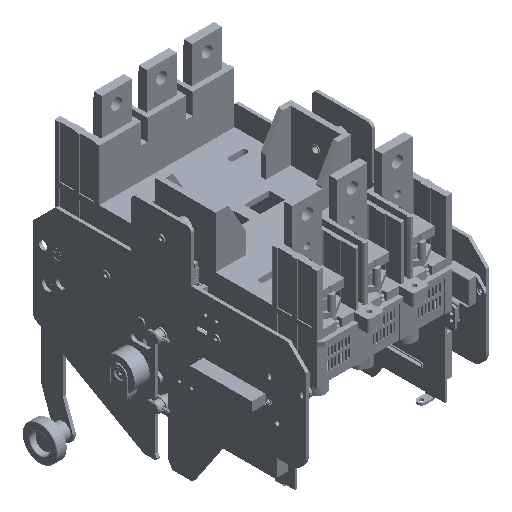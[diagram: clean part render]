
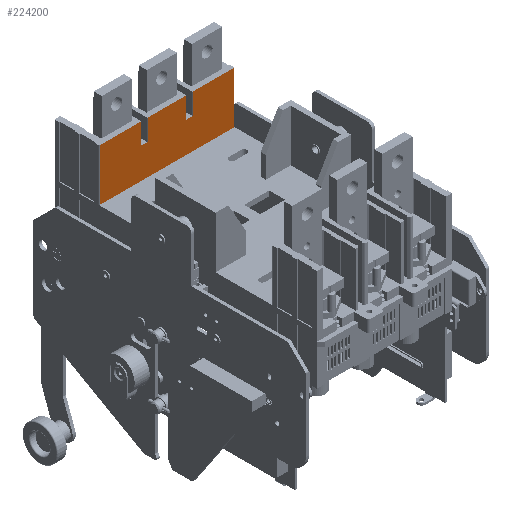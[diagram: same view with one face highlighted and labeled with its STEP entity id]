
A CAD part, isometric view. The second image highlights one B-rep face of the part: STEP entity #224200.
In plain terms, the highlighted planar face has unit normal (0, -1, 0).
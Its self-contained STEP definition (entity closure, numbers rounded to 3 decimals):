
#3893 = DIRECTION ( 'NONE',  ( 1., 0., 0. ) ) ;
#8737 = DIRECTION ( 'NONE',  ( 0., 0., -1. ) ) ;
#8869 = VECTOR ( 'NONE', #110472, 1000. ) ;
#11527 = ORIENTED_EDGE ( 'NONE', *, *, #248199, .F. ) ;
#12531 = DIRECTION ( 'NONE',  ( 1., 0., 0. ) ) ;
#14149 = CARTESIAN_POINT ( 'NONE',  ( -20.789, 77.79, 50.75 ) ) ;
#16276 = ORIENTED_EDGE ( 'NONE', *, *, #199809, .F. ) ;
#16760 = CARTESIAN_POINT ( 'NONE',  ( -68.254, 77.79, 50.75 ) ) ;
#18940 = EDGE_CURVE ( 'NONE', #40286, #254728, #131045, .T. ) ;
#24898 = EDGE_CURVE ( 'NONE', #42968, #185288, #234768, .T. ) ;
#25505 = CARTESIAN_POINT ( 'NONE',  ( -68.254, 77.79, 50.75 ) ) ;
#29732 = VECTOR ( 'NONE', #166581, 1000. ) ;
#32380 = CARTESIAN_POINT ( 'NONE',  ( -14.521, 77.79, 50.75 ) ) ;
#33777 = DIRECTION ( 'NONE',  ( 1., 0., 0. ) ) ;
#33922 = CARTESIAN_POINT ( 'NONE',  ( 71.345, 77.79, -162.469 ) ) ;
#35680 = ORIENTED_EDGE ( 'NONE', *, *, #113940, .F. ) ;
#39029 = CARTESIAN_POINT ( 'NONE',  ( 71.345, 77.79, 50.75 ) ) ;
#40286 = VERTEX_POINT ( 'NONE', #128322 ) ;
#42968 = VERTEX_POINT ( 'NONE', #50995 ) ;
#45058 = EDGE_CURVE ( 'NONE', #189034, #70588, #133094, .T. ) ;
#47542 = EDGE_CURVE ( 'NONE', #48462, #134344, #184756, .T. ) ;
#48133 = CARTESIAN_POINT ( 'NONE',  ( -68.254, 77.79, -162.469 ) ) ;
#48462 = VERTEX_POINT ( 'NONE', #163912 ) ;
#49578 = DIRECTION ( 'NONE',  ( -1., 0., 0. ) ) ;
#50995 = CARTESIAN_POINT ( 'NONE',  ( 71.345, 77.79, -0.75 ) ) ;
#52676 = VECTOR ( 'NONE', #137290, 1000. ) ;
#55004 = CARTESIAN_POINT ( 'NONE',  ( 29.595, 77.79, 29.75 ) ) ;
#56883 = ORIENTED_EDGE ( 'NONE', *, *, #24898, .F. ) ;
#58066 = VECTOR ( 'NONE', #172280, 1000. ) ;
#58352 = LINE ( 'NONE', #25505, #79204 ) ;
#65364 = LINE ( 'NONE', #242330, #113509 ) ;
#65572 = CARTESIAN_POINT ( 'NONE',  ( -68.254, 77.79, 50.75 ) ) ;
#70588 = VERTEX_POINT ( 'NONE', #208384 ) ;
#71040 = EDGE_LOOP ( 'NONE', ( #188258, #140361, #11527, #72418, #98038, #35680, #139593, #248412, #238592, #242806, #16276, #56883 ) ) ;
#72418 = ORIENTED_EDGE ( 'NONE', *, *, #45058, .F. ) ;
#79204 = VECTOR ( 'NONE', #33777, 1000. ) ;
#81026 = DIRECTION ( 'NONE',  ( 0., 0., -1. ) ) ;
#81348 = CARTESIAN_POINT ( 'NONE',  ( 24.211, 77.79, 29.75 ) ) ;
#82582 = EDGE_CURVE ( 'NONE', #143755, #176725, #140032, .T. ) ;
#90157 = AXIS2_PLACEMENT_3D ( 'NONE', #48133, #220931, #81026 ) ;
#96731 = LINE ( 'NONE', #174878, #29732 ) ;
#98038 = ORIENTED_EDGE ( 'NONE', *, *, #108629, .F. ) ;
#102165 = CARTESIAN_POINT ( 'NONE',  ( -15.405, 77.79, 29.75 ) ) ;
#108381 = LINE ( 'NONE', #198820, #211017 ) ;
#108629 = EDGE_CURVE ( 'NONE', #182778, #189034, #230824, .T. ) ;
#110472 = DIRECTION ( 'NONE',  ( -1., 0., 0. ) ) ;
#113509 = VECTOR ( 'NONE', #139265, 1000. ) ;
#113940 = EDGE_CURVE ( 'NONE', #254728, #182778, #58352, .T. ) ;
#114006 = VECTOR ( 'NONE', #49578, 1000. ) ;
#115768 = VECTOR ( 'NONE', #12531, 1000. ) ;
#128322 = CARTESIAN_POINT ( 'NONE',  ( -14.521, 77.79, 29.75 ) ) ;
#131045 = LINE ( 'NONE', #32380, #58066 ) ;
#132554 = DIRECTION ( 'NONE',  ( 0., 0., -1. ) ) ;
#133094 = LINE ( 'NONE', #55004, #52676 ) ;
#134344 = VERTEX_POINT ( 'NONE', #39029 ) ;
#136546 = EDGE_CURVE ( 'NONE', #134344, #42968, #144901, .T. ) ;
#137290 = DIRECTION ( 'NONE',  ( 1., 0., 0. ) ) ;
#139265 = DIRECTION ( 'NONE',  ( 0., 0., -1. ) ) ;
#139593 = ORIENTED_EDGE ( 'NONE', *, *, #18940, .F. ) ;
#139947 = VECTOR ( 'NONE', #8737, 1000. ) ;
#140032 = LINE ( 'NONE', #16760, #115768 ) ;
#140361 = ORIENTED_EDGE ( 'NONE', *, *, #47542, .F. ) ;
#143755 = VERTEX_POINT ( 'NONE', #238366 ) ;
#144901 = LINE ( 'NONE', #33922, #193659 ) ;
#148459 = CARTESIAN_POINT ( 'NONE',  ( -14.521, 77.79, 50.75 ) ) ;
#153614 = DIRECTION ( 'NONE',  ( 0., 0., 1. ) ) ;
#163912 = CARTESIAN_POINT ( 'NONE',  ( 30.479, 77.79, 50.75 ) ) ;
#166581 = DIRECTION ( 'NONE',  ( 0., 0., 1. ) ) ;
#167487 = VECTOR ( 'NONE', #3893, 1000. ) ;
#169186 = CARTESIAN_POINT ( 'NONE',  ( 24.211, 77.79, 29.75 ) ) ;
#172280 = DIRECTION ( 'NONE',  ( 0., 0., 1. ) ) ;
#174878 = CARTESIAN_POINT ( 'NONE',  ( 30.479, 77.79, 50.75 ) ) ;
#176725 = VERTEX_POINT ( 'NONE', #14149 ) ;
#177814 = EDGE_CURVE ( 'NONE', #176725, #218524, #65364, .T. ) ;
#179955 = CARTESIAN_POINT ( 'NONE',  ( 24.211, 77.79, 50.75 ) ) ;
#180307 = LINE ( 'NONE', #102165, #8869 ) ;
#182778 = VERTEX_POINT ( 'NONE', #179955 ) ;
#184756 = LINE ( 'NONE', #65572, #167487 ) ;
#185254 = CARTESIAN_POINT ( 'NONE',  ( -68.254, 77.79, -0.75 ) ) ;
#185288 = VERTEX_POINT ( 'NONE', #236039 ) ;
#188258 = ORIENTED_EDGE ( 'NONE', *, *, #136546, .F. ) ;
#189034 = VERTEX_POINT ( 'NONE', #81348 ) ;
#192105 = PLANE ( 'NONE',  #90157 ) ;
#193659 = VECTOR ( 'NONE', #132554, 1000. ) ;
#198820 = CARTESIAN_POINT ( 'NONE',  ( -61.655, 77.79, -162.469 ) ) ;
#199809 = EDGE_CURVE ( 'NONE', #185288, #143755, #108381, .T. ) ;
#208384 = CARTESIAN_POINT ( 'NONE',  ( 30.479, 77.79, 29.75 ) ) ;
#211017 = VECTOR ( 'NONE', #153614, 1000. ) ;
#211124 = CARTESIAN_POINT ( 'NONE',  ( -20.789, 77.79, 29.75 ) ) ;
#218524 = VERTEX_POINT ( 'NONE', #211124 ) ;
#220931 = DIRECTION ( 'NONE',  ( 0., 1., 0. ) ) ;
#224200 = ADVANCED_FACE ( 'NONE', ( #241588 ), #192105, .F. ) ;
#224374 = EDGE_CURVE ( 'NONE', #40286, #218524, #180307, .T. ) ;
#230824 = LINE ( 'NONE', #169186, #139947 ) ;
#234768 = LINE ( 'NONE', #185254, #114006 ) ;
#236039 = CARTESIAN_POINT ( 'NONE',  ( -61.655, 77.79, -0.75 ) ) ;
#238366 = CARTESIAN_POINT ( 'NONE',  ( -61.655, 77.79, 50.75 ) ) ;
#238592 = ORIENTED_EDGE ( 'NONE', *, *, #177814, .F. ) ;
#241588 = FACE_OUTER_BOUND ( 'NONE', #71040, .T. ) ;
#242330 = CARTESIAN_POINT ( 'NONE',  ( -20.789, 77.79, 29.75 ) ) ;
#242806 = ORIENTED_EDGE ( 'NONE', *, *, #82582, .F. ) ;
#248199 = EDGE_CURVE ( 'NONE', #70588, #48462, #96731, .T. ) ;
#248412 = ORIENTED_EDGE ( 'NONE', *, *, #224374, .T. ) ;
#254728 = VERTEX_POINT ( 'NONE', #148459 ) ;
